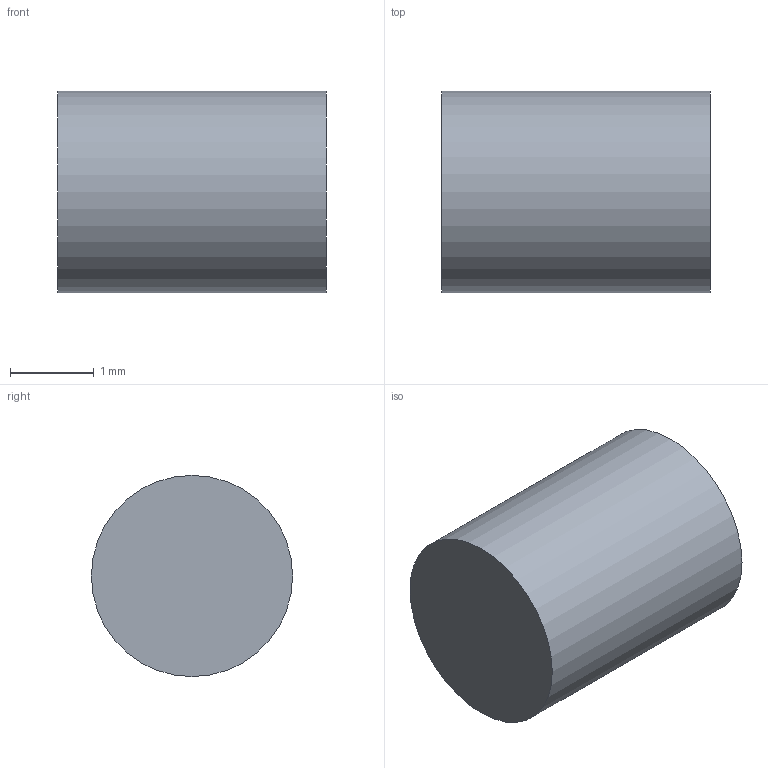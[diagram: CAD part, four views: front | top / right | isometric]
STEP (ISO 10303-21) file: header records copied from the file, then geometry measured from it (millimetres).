
FILE_DESCRIPTION(('Open CASCADE Model'),'2;1');
FILE_NAME('Open CASCADE Shape Model','2026-09-15T14:15:44',('Author'),( 'Open CASCADE'),'Open CASCADE STEP processor 7.7','Open CASCADE 7.7' ,'Unknown');
FILE_SCHEMA(('AUTOMOTIVE_DESIGN { 1 0 10303 214 1 1 1 1 }'));
Length unit declared in the file: millimetre
Products named in the file (1): J9_JOINT_VOLUP_TWO_WIRE_COMMON_D2p4_ALLOWANCE
Bounding box: 3.2 x 2.4 x 2.4 mm (x, y, z)
Volume: 14.5 mm3; surface area: 33.2 mm2
Topology: 1 solids, 1 shells, 3 faces, 3 edges, 2 vertices
Faces by surface type: plane 2, cylinder 1
Full cylindrical faces by diameter (mm): 2.4 x1
Entity records: 108 total; most frequent: DIRECTION 19, CARTESIAN_POINT 15, AXIS2_PLACEMENT_3D 6, ORIENTED_EDGE 6, PCURVE 6, DEFINITIONAL_REPRESENTATION 6, LINE 5, VECTOR 5
